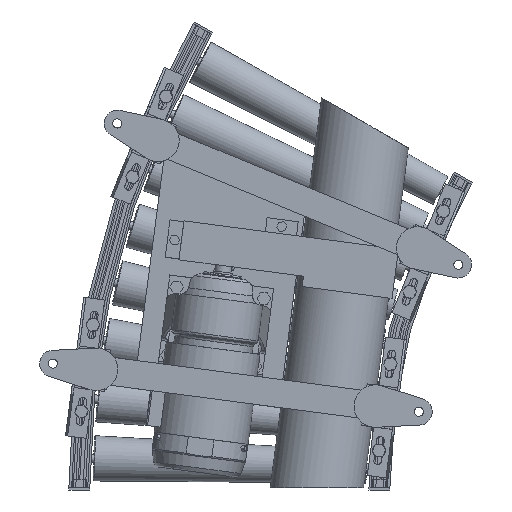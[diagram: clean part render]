
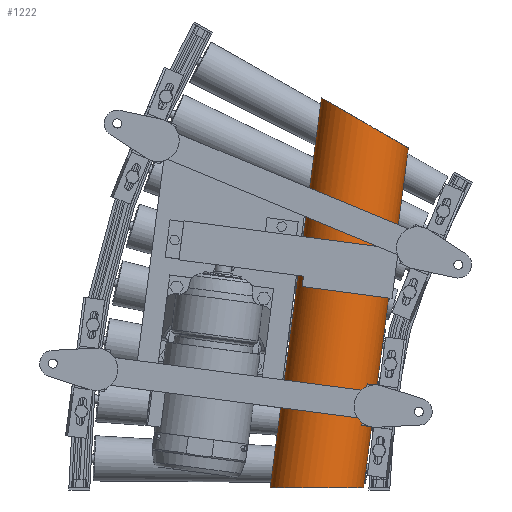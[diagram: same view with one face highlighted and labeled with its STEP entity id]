
A CAD part, front view. The second image highlights one B-rep face of the part: STEP entity #1222.
In plain terms, the highlighted cylindrical face has radius 66.3 mm (diameter 132.6 mm), a partial arc.
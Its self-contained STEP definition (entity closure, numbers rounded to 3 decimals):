
#1222=ADVANCED_FACE('',(#4918),#4917,.T.);
#4917=CYLINDRICAL_SURFACE('',#26671,66.3);
#4918=FACE_OUTER_BOUND('',#26672,.T.);
#26668=CARTESIAN_POINT('',(272.312,-151.7,1116.199));
#26669=DIRECTION('',(0.131,0.,0.991));
#26670=DIRECTION('',(0.991,0.,-0.131));
#26671=AXIS2_PLACEMENT_3D('',#26668,#26669,#26670);
#26672=EDGE_LOOP('',(#38449,#38450,#38451,#38452));
#38449=ORIENTED_EDGE('',*,*,#48990,.F.);
#38450=ORIENTED_EDGE('',*,*,#48991,.F.);
#38451=ORIENTED_EDGE('',*,*,#48992,.T.);
#38452=ORIENTED_EDGE('',*,*,#48987,.T.);
#48987=EDGE_CURVE('',#56498,#56490,#56499,.T.);
#48990=EDGE_CURVE('',#56518,#56490,#56519,.T.);
#48991=EDGE_CURVE('',#56525,#56518,#56526,.T.);
#48992=EDGE_CURVE('',#56525,#56498,#56532,.T.);
#56490=VERTEX_POINT('',#91715);
#56498=VERTEX_POINT('',#91720);
#56499=LINE('',#91721,#91722);
#56518=VERTEX_POINT('',#91731);
#56519=(BOUNDED_CURVE() B_SPLINE_CURVE(2,(#91732,#91733,#91734,#91735,#91736),.UNSPECIFIED.,.F.,.F.) B_SPLINE_CURVE_WITH_KNOTS((3,2,3),(3.142,4.712,6.283),.UNSPECIFIED.) CURVE() GEOMETRIC_REPRESENTATION_ITEM() RATIONAL_B_SPLINE_CURVE((1.,0.707,1.,0.707,1.)) REPRESENTATION_ITEM('') );
#56525=VERTEX_POINT('',#91737);
#56526=LINE('',#91738,#91739);
#56532=(BOUNDED_CURVE() B_SPLINE_CURVE(2,(#91741,#91742,#91743,#91744,#91745),.UNSPECIFIED.,.F.,.F.) B_SPLINE_CURVE_WITH_KNOTS((3,2,3),(0.,1.571,3.142),.UNSPECIFIED.) CURVE() GEOMETRIC_REPRESENTATION_ITEM() RATIONAL_B_SPLINE_CURVE((1.,0.707,1.,0.707,1.)) REPRESENTATION_ITEM('') );
#91715=CARTESIAN_POINT('',(58.49,-151.7,0.));
#91720=CARTESIAN_POINT('',(132.062,-151.7,558.839));
#91721=CARTESIAN_POINT('',(132.062,-151.7,558.839));
#91722=VECTOR('',#91723,563.661);
#91723=DIRECTION('',(-0.131,0.,-0.991));
#91731=CARTESIAN_POINT('',(192.234,-151.7,0.));
#91732=CARTESIAN_POINT('',(192.234,-151.7,0.));
#91733=CARTESIAN_POINT('',(192.234,-218.,0.));
#91734=CARTESIAN_POINT('',(125.362,-218.,0.));
#91735=CARTESIAN_POINT('',(58.49,-218.,0.));
#91736=CARTESIAN_POINT('',(58.49,-151.7,0.));
#91737=CARTESIAN_POINT('',(256.359,-151.7,487.076));
#91738=CARTESIAN_POINT('',(256.359,-151.7,487.076));
#91739=VECTOR('',#91740,491.279);
#91740=DIRECTION('',(-0.131,0.,-0.991));
#91741=CARTESIAN_POINT('',(256.359,-151.7,487.076));
#91742=CARTESIAN_POINT('',(256.359,-218.,487.076));
#91743=CARTESIAN_POINT('',(194.211,-218.,522.958));
#91744=CARTESIAN_POINT('',(132.062,-218.,558.839));
#91745=CARTESIAN_POINT('',(132.062,-151.7,558.839));
